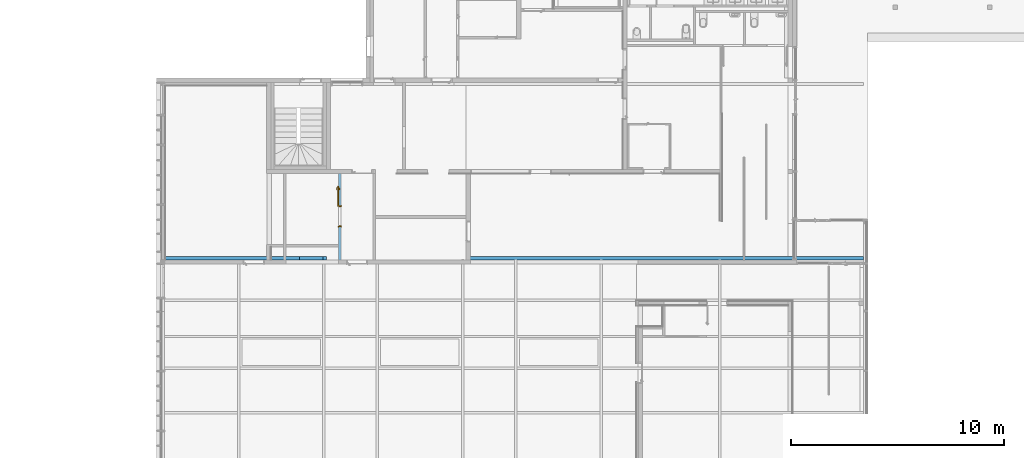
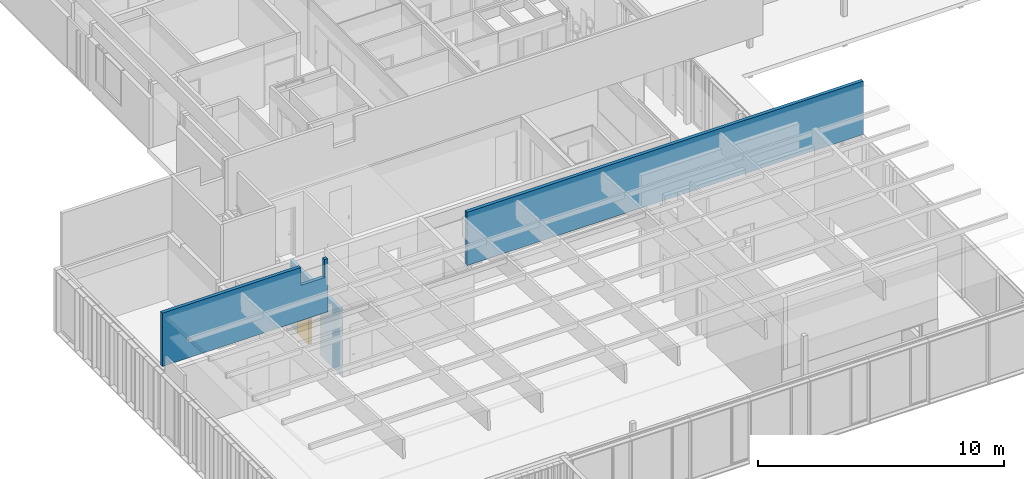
# One storey, part 186 of 240: 1 door, 1 wall, 1 opening, plus 1 element that does not belong to this part.
"""IFC2X3 building model written with IfcOpenShell, lengths in centimetres."""

from ifc_helpers import new_model, entity, si_unit, converted_unit, derived_unit, direction, frame, frame_2d, origin, place, context, subcontext, project, spatial, rectangle, extrude, faceted_brep, source, transform, mapped, material, material_list, layer, layer_set, layer_usage, type_object, type_shapes, element, fill, save


model = new_model("IFC2X3")

# Units and contexts
model_context = context("Model", 3, precision=0.001, world=origin(), true_north=direction((6.12303176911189e-17, 1.0)))
body_context = subcontext(model_context, "Body", "Model", "MODEL_VIEW")
ifc_project = project(units=[si_unit("LENGTHUNIT", "METRE", prefix="CENTI"), si_unit("AREAUNIT", "SQUARE_METRE"), si_unit("VOLUMEUNIT", "CUBIC_METRE"), converted_unit("PLANEANGLEUNIT", "DEGREE", entity("IfcRatioMeasure", 0.0174532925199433), si_unit("PLANEANGLEUNIT", "RADIAN"), dimensions=[0, 0, 0, 0, 0, 0, 0]), si_unit("MASSUNIT", "GRAM", prefix="KILO"), derived_unit("MASSDENSITYUNIT", [(si_unit("MASSUNIT", "GRAM", prefix="KILO"), 1), (si_unit("LENGTHUNIT", "METRE"), -3)]), si_unit("TIMEUNIT", "SECOND"), si_unit("FREQUENCYUNIT", "HERTZ"), si_unit("THERMODYNAMICTEMPERATUREUNIT", "DEGREE_CELSIUS"), derived_unit("THERMALTRANSMITTANCEUNIT", [(si_unit("MASSUNIT", "GRAM", prefix="KILO"), 1), (si_unit("THERMODYNAMICTEMPERATUREUNIT", "KELVIN"), -1), (si_unit("TIMEUNIT", "SECOND"), -3)]), derived_unit("VOLUMETRICFLOWRATEUNIT", [(si_unit("LENGTHUNIT", "METRE"), 3), (si_unit("TIMEUNIT", "SECOND"), -1)]), si_unit("ELECTRICCURRENTUNIT", "AMPERE"), si_unit("ELECTRICVOLTAGEUNIT", "VOLT"), si_unit("POWERUNIT", "WATT"), si_unit("FORCEUNIT", "NEWTON", prefix="KILO"), si_unit("ILLUMINANCEUNIT", "LUX"), si_unit("LUMINOUSFLUXUNIT", "LUMEN"), si_unit("LUMINOUSINTENSITYUNIT", "CANDELA"), derived_unit("USERDEFINED", [(si_unit("MASSUNIT", "GRAM", prefix="KILO"), -1), (si_unit("LENGTHUNIT", "METRE"), -2), (si_unit("TIMEUNIT", "SECOND"), 3), (si_unit("LUMINOUSFLUXUNIT", "LUMEN"), 1)]), derived_unit("LINEARVELOCITYUNIT", [(si_unit("LENGTHUNIT", "METRE"), 1), (si_unit("TIMEUNIT", "SECOND"), -1)]), si_unit("PRESSUREUNIT", "PASCAL"), derived_unit("USERDEFINED", [(si_unit("LENGTHUNIT", "METRE"), -2), (si_unit("MASSUNIT", "GRAM", prefix="KILO"), 1), (si_unit("TIMEUNIT", "SECOND"), -2)])], contexts=[model_context])

# Site, building, storey
site_placement = place(None, frame((-2781.94577612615, 7442.24238424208, 0.0)))
site = spatial("IfcSite", under=ifc_project, at=site_placement, Name="Default", CompositionType="ELEMENT")
building_placement = place(site_placement, origin())
building = spatial("IfcBuilding", under=site, at=building_placement, CompositionType="ELEMENT")
storey_placement = place(building_placement, origin())
storey = spatial("IfcBuildingStorey", under=building, at=storey_placement, Name="N00 - COO", CompositionType="ELEMENT", Elevation=0.0)

# Wall
ifc_material_1 = material(Name="00 - Isolant")
ifc_layer_1 = layer(ifc_material_1, 16.0)
ifc_layer_set_1 = layer_set([ifc_layer_1], Name="Mur de base:04 - retour isolation acrotère - ITE 16cm")
wall_type_1 = type_object("IfcWallType", Name="Mur de base:04 - retour isolation acrotère - ITE 16cm", PredefinedType="STANDARD", material=ifc_layer_set_1)
wall_1_placement = place(building_placement, frame((-8568.98738089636, -4197.50027342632, 333.862834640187), z_axis=(0.0, 0.0, 1.0), x_axis=(-1.0, 0.0, 0.0)))
element("IfcWall", 1, at=wall_1_placement, inside=storey, type_object=wall_type_1, Name="Mur de base:04 - retour isolation acrotère - ITE 16cm", ObjectType="Mur de base:04 - retour isolation acrotère - ITE 16cm", context=body_context, shape_type="Brep", body=[
    faceted_brep([(0.0, -8.0, 0.0), (1862.97735720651, -8.0, 0.0), (1862.97735720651, -8.0, 265.137165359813), (1842.97735720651, -8.0, 265.137165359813), (0.0, -8.0, 265.137165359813), (0.0, 8.0, 265.137165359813), (0.0, 8.0, 0.0), (1862.97735720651, 8.0, 0.0), (1862.97735720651, 8.0, 265.137165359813), (1842.97735720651, 8.0, 265.137165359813)], [[[0, 1, 2, 3, 4]], [[0, 4, 5, 6]], [[1, 0, 6, 7]], [[4, 3, 2, 8, 9, 5]], [[2, 1, 7, 8]], [[6, 5, 9, 8, 7]]]),
    faceted_brep([(3295.36319372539, 8.0, 265.137165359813), (3295.36319372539, 8.0, 0.0), (2517.89542707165, 8.0, 0.0), (2517.89542707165, 8.0, 265.137165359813), (2534.89542707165, 8.0, 265.137165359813), (2534.89542707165, 8.0, 175.137165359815), (2644.89542707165, 8.0, 175.137165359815), (2644.89542707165, 8.0, 265.137165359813), (3295.36319372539, -8.0, 265.137165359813), (3295.36319372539, -8.0, 0.0), (2644.89542707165, -8.0, 265.137165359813), (2644.89542707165, -8.0, 175.137165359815), (2534.89542707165, -8.0, 175.137165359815), (2534.89542707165, -8.0, 265.137165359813), (2517.89542707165, -8.0, 265.137165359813), (2517.89542707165, -8.0, 0.0)], [[[0, 1, 2, 3, 4, 5, 6, 7]], [[8, 9, 1, 0]], [[10, 8, 0, 7]], [[11, 10, 7, 6]], [[12, 11, 6, 5]], [[13, 12, 5, 4]], [[14, 13, 4, 3]], [[9, 15, 2, 1]], [[15, 14, 3, 2]], [[8, 10, 11, 12, 13, 14, 15, 9]]]),
])

# Wall, opening, door
ifc_material_2 = material(Name="01 - Enduit/Plâtre")
ifc_layer_2 = layer(ifc_material_2, 1.0)
ifc_material_3 = material(Name="Maçonnerie - Béton")
ifc_layer_3 = layer(ifc_material_3, 10.0)
ifc_layer_4 = layer(ifc_material_2, 1.0)
ifc_layer_set_2 = layer_set([ifc_layer_2, ifc_layer_3, ifc_layer_4], Name="Mur de base:06 - cloisons - agglos10 + faïence 12cm")
ifc_layer_usage = layer_usage(ifc_layer_set_2, "AXIS2", "NEGATIVE", 6.0)
wall_type_2 = type_object("IfcWallType", Name="Mur de base:06 - cloisons - agglos10 + faïence 12cm", PredefinedType="STANDARD", material=ifc_layer_set_2)
wall_2_placement = place(building_placement, frame((-11023.932180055, -3800.7196611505, 0.0), z_axis=(0.0, 0.0, 1.0), x_axis=(0.0, -1.0, 0.0)))
wall_2 = element("IfcWallStandardCase", 2, at=wall_2_placement, inside=storey, type_object=wall_type_2, material=ifc_layer_usage, Name="Mur de base:06 - cloisons - agglos10 + faïence 12cm", ObjectType="Mur de base:06 - cloisons - agglos10 + faïence 12cm", context=body_context, shape_type="SweptSolid", body=[
    extrude(rectangle(XDim=404.780612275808, YDim=12.0000000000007, at=frame_2d((202.390306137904, 0.0), x_axis=(-1.0, 0.0))), origin(), (0.0, 0.0, 1.0), 328.0),
])
opening_placement = place(wall_2_placement, frame((249.780612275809, 6.0, 0.0)))
opening = element("IfcOpeningElement", 3, at=opening_placement, cuts=wall_2, Name="Int. Simple:PP simple (0.93m x 2.50m):1", ObjectType="Opening", context=body_context, shape_type="SweptSolid", body=[
    extrude(rectangle(XDim=248.500000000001, YDim=99.9999999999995, at=frame_2d((124.250000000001, 49.9999999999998), x_axis=(1.0, 0.0))), frame((0.0, 0.0, 0.0), z_axis=(0.0, -1.0, 0.0), x_axis=(0.0, 0.0, 1.0)), (0.0, 0.0, 1.0), 12.0),
])
ifc_material_4 = material(Name="Finition Peinture - Blanc satiné")
ifc_material_5 = material(Name="Bois - Panneau de porte")
ifc_material_6 = material(Name="Bois - Cadre de porte")
ifc_material_list_1 = material_list([ifc_material_4, ifc_material_5, ifc_material_6])
ifc_material_list_2 = material_list([ifc_material_4, ifc_material_5, ifc_material_6])
door_style = type_object("IfcDoorStyle", Name="PP simple (0.93m x 2.50m)", ConstructionType="NOTDEFINED", OperationType="SINGLE_SWING_RIGHT", ParameterTakesPrecedence=False, Sizeable=False, material=ifc_material_list_2)
shared_shape = source(origin(), body_context, "Body", "Brep", [
    faceted_brep([(-78.4999999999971, 0.499999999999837, 87.0), (-78.4999999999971, 0.499999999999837, 108.0), (-77.5352761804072, 0.499999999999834, 108.399601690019), (-76.4999999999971, 0.49999999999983, 108.535898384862), (-75.4647238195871, 0.499999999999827, 108.399601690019), (-74.4999999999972, 0.499999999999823, 108.0), (-74.499999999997, 0.499999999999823, 87.0), (-75.4647238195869, 0.499999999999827, 86.6003983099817), (-76.499999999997, 0.49999999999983, 86.464101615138), (-77.5352761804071, 0.499999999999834, 86.6003983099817), (-78.4999999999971, 0.0, 108.0), (-78.499999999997, 0.0, 87.0), (-77.5352761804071, 0.0, 86.6003983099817), (-76.499999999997, 0.0, 86.464101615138), (-75.464723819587, 0.0, 86.6003983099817), (-74.4999999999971, 0.0, 87.0), (-74.4999999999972, 0.0, 108.0), (-75.4647238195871, 0.0, 108.399601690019), (-76.4999999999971, 0.0, 108.535898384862), (-77.5352761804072, 0.0, 108.399601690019)], [[[0, 1, 2, 3, 4, 5, 6, 7, 8, 9]], [[10, 11, 12, 13, 14, 15, 16, 17, 18, 19]], [[9, 12, 11, 0]], [[8, 13, 12, 9]], [[7, 14, 13, 8]], [[7, 6, 15, 14]], [[15, 6, 5, 16]], [[4, 17, 16, 5]], [[3, 18, 17, 4]], [[2, 19, 18, 3]], [[2, 1, 10, 19]], [[11, 10, 1, 0]]]),
    faceted_brep([(-78.4999999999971, -4.0, 87.0), (-78.4999999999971, -4.0, 108.0), (-77.5352761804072, -4.0, 108.399601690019), (-76.4999999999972, -4.0, 108.535898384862), (-75.4647238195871, -4.0, 108.399601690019), (-74.4999999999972, -4.0, 108.0), (-74.4999999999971, -4.0, 87.0), (-75.464723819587, -4.0, 86.6003983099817), (-76.499999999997, -4.0, 86.464101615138), (-77.5352761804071, -4.0, 86.6003983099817), (-76.4999999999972, -4.50000000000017, 108.535898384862), (-77.5352761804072, -4.50000000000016, 108.399601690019), (-78.4999999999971, -4.50000000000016, 108.0), (-78.499999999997, -4.50000000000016, 87.0), (-77.5352761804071, -4.50000000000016, 86.6003983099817), (-76.499999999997, -4.50000000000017, 86.464101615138), (-75.464723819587, -4.50000000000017, 86.6003983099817), (-74.4999999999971, -4.50000000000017, 87.0), (-74.4999999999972, -4.50000000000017, 108.0), (-75.4647238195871, -4.50000000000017, 108.399601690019)], [[[0, 1, 2, 3, 4, 5, 6, 7, 8, 9]], [[10, 11, 12, 13, 14, 15, 16, 17, 18, 19]], [[4, 19, 18, 5]], [[3, 10, 19, 4]], [[2, 11, 10, 3]], [[2, 1, 12, 11]], [[13, 12, 1, 0]], [[9, 14, 13, 0]], [[8, 15, 14, 9]], [[7, 16, 15, 8]], [[7, 6, 17, 16]], [[17, 6, 5, 18]]]),
    faceted_brep([(-76.2974701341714, 0.499999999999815, 100.778044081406), (-76.7025298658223, 0.499999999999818, 100.778044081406), (-77.0999999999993, 0.49999999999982, 100.699999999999), (-77.1000000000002, 0.49999999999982, 99.2999999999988), (-76.7025298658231, 0.499999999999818, 99.221955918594), (-76.2974701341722, 0.499999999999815, 99.2219559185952), (-75.8999999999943, 0.499999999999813, 99.3000000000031), (-75.8999999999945, 0.499999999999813, 100.7), (-76.7025298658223, 3.10045754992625, 100.778044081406), (-77.0999999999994, 3.26509507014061, 100.7), (-76.2974701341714, 2.93267631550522, 100.778044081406), (-74.929860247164, 4.30028620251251, 100.778044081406), (-75.097641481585, 4.70534593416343, 100.778044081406), (-75.8999999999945, 2.76803879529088, 100.7), (-75.8999999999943, 2.76803879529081, 99.3000000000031), (-76.2974701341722, 2.93267631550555, 99.2219559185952), (-76.7025298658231, 3.10045754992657, 99.221955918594), (-75.0976414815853, 4.70534593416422, 99.221955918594), (-74.9298602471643, 4.3002862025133, 99.2219559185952), (-77.1000000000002, 3.26509507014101, 99.2999999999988), (-75.2622790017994, 5.10281606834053, 100.7), (-74.7652227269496, 3.9028160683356, 100.7), (-74.7652227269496, 3.90281606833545, 99.3000000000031), (-75.2622790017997, 5.10281606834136, 99.2999999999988), (-66.4981359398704, 5.10281606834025, 100.7), (-66.4981359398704, 4.70534593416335, 100.778044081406), (-66.4981359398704, 4.30028620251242, 100.778044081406), (-66.4981359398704, 3.90281606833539, 100.699999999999), (-66.4981359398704, 3.90281606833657, 99.3000000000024), (-66.4981359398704, 4.30028620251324, 99.2219559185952), (-66.4981359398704, 4.70534593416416, 99.221955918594), (-66.4981359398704, 5.10281606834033, 99.2999999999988), (-70.7139980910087, 4.50281606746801, 100.78786867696), (-71.2692302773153, 5.10281606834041, 100.7), (-70.63167933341, 3.90281606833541, 100.7), (-70.6316793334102, 3.9028160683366, 99.3000000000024), (-70.7139981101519, 4.50281607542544, 99.2121313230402), (-71.2692310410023, 5.10281606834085, 99.2999999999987)], [[[0, 1, 2, 3, 4, 5, 6, 7]], [[2, 1, 8, 9]], [[1, 0, 10, 11, 12, 8]], [[0, 7, 13, 10]], [[14, 13, 7, 6]], [[5, 15, 14, 6]], [[5, 4, 16, 17, 18, 15]], [[3, 19, 16, 4]], [[9, 19, 3, 2]], [[9, 8, 12, 20]], [[10, 13, 21, 11]], [[22, 21, 13, 14]], [[14, 15, 18, 22]], [[16, 19, 23, 17]], [[20, 23, 19, 9]], [[24, 25, 26, 27, 28, 29, 30, 31]], [[32, 25, 33]], [[33, 25, 24]], [[33, 20, 12]], [[11, 34, 32]], [[34, 11, 21]], [[27, 26, 34]], [[32, 26, 25]], [[32, 34, 26]], [[32, 33, 12]], [[11, 32, 12]], [[21, 22, 35, 28, 27, 34]], [[36, 29, 35]], [[30, 36, 37]], [[18, 35, 22]], [[29, 28, 35]], [[30, 37, 31]], [[37, 17, 23]], [[36, 17, 37]], [[36, 18, 17]], [[36, 35, 18]], [[29, 36, 30]], [[23, 20, 33, 24, 31, 37]]]),
    faceted_brep([(-76.2974701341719, -4.50000000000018, 99.2219559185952), (-76.7025298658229, -4.50000000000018, 99.221955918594), (-77.099999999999, -4.50000000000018, 99.2999999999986), (-77.0999999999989, -4.50000000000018, 100.7), (-76.702529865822, -4.50000000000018, 100.778044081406), (-76.2974701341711, -4.50000000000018, 100.778044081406), (-75.8999999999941, -4.50000000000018, 100.7), (-75.8999999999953, -4.50000000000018, 99.3000000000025), (-75.8999999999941, -6.74852045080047, 100.7), (-75.8999999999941, -6.74852045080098, 99.3000000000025), (-76.2974701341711, -6.91315797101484, 100.778044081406), (-76.702529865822, -7.08093920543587, 100.778044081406), (-75.0838906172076, -8.69957845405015, 100.778044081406), (-74.9161093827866, -8.29451872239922, 100.778044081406), (-77.0999999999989, -7.2455767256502, 100.7), (-77.099999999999, -7.24557672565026, 99.2999999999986), (-76.7025298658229, -7.08093920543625, 99.221955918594), (-76.297470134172, -6.91315797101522, 99.2219559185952), (-74.916109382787, -8.29451872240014, 99.2219559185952), (-75.083890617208, -8.69957845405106, 99.221955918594), (-74.7514718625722, -7.89704858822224, 100.7), (-74.7514718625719, -7.8970485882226, 99.3000000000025), (-75.2485281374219, -9.09704858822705, 100.7), (-75.248528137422, -9.09704858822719, 99.2999999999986), (-66.4954216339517, -8.29451872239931, 100.778044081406), (-66.4954216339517, -8.69957845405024, 100.778044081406), (-66.4954216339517, -9.09704858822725, 100.7), (-66.4954216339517, -9.09704858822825, 99.2999999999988), (-66.4954216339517, -8.69957845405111, 99.221955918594), (-66.4954216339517, -8.29451872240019, 99.2219559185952), (-66.4954216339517, -7.8970485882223, 99.3000000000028), (-66.4954216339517, -7.89704858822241, 100.7), (-70.623446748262, -7.89704858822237, 100.7), (-70.6234479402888, -7.89704858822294, 99.3000000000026), (-70.7057655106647, -8.49704858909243, 100.78786867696), (-71.2554794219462, -9.09704858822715, 100.7), (-71.2554795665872, -9.09704858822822, 99.2999999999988), (-70.7057654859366, -8.49704858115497, 99.2121313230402)], [[[0, 1, 2, 3, 4, 5, 6, 7]], [[8, 9, 7, 6]], [[5, 10, 8, 6]], [[5, 4, 11, 12, 13, 10]], [[3, 14, 11, 4]], [[14, 3, 2, 15]], [[2, 1, 16, 15]], [[1, 0, 17, 18, 19, 16]], [[0, 7, 9, 17]], [[20, 21, 9, 8]], [[8, 10, 13, 20]], [[14, 22, 12, 11]], [[23, 22, 14, 15]], [[15, 16, 19, 23]], [[17, 9, 21, 18]], [[24, 25, 26, 27, 28, 29, 30, 31]], [[21, 20, 32, 31, 30, 33]], [[34, 24, 32]], [[25, 34, 35]], [[13, 32, 20]], [[24, 31, 32]], [[25, 35, 26]], [[35, 12, 22]], [[34, 12, 35]], [[34, 13, 12]], [[34, 32, 13]], [[24, 34, 25]], [[22, 23, 36, 27, 26, 35]], [[37, 28, 36]], [[36, 28, 27]], [[36, 23, 19]], [[18, 33, 37]], [[33, 18, 21]], [[30, 29, 33]], [[37, 29, 28]], [[37, 33, 29]], [[37, 36, 19]], [[18, 37, 19]]]),
    faceted_brep([(-82.4999999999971, -4.0, 245.0), (-82.4999999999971, -4.0, 0.0), (10.5000000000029, -4.0, 0.0), (10.5000000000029, -4.0, 245.0), (-82.4999999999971, 0.0, 245.0), (10.5000000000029, 0.0, 245.0), (10.5000000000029, 0.0, 0.0), (-82.4999999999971, 0.0, 0.0)], [[[0, 1, 2, 3]], [[4, 5, 6, 7]], [[3, 5, 4, 0]], [[2, 6, 5, 3]], [[1, 7, 6, 2]], [[0, 4, 7, 1]]]),
    faceted_brep([(107.0, 12.0, 0.0), (107.0, 0.0, 0.0), (108.500000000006, 0.0, 0.0), (108.500000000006, -0.500000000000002, 0.0), (103.500000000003, -0.500000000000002, 0.0), (103.500000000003, 4.0, 0.0), (102.0, 4.0, 0.0), (102.0, 12.5000000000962, 0.0), (108.500000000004, 12.5000000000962, 0.0), (108.500000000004, 12.0, 0.0), (107.0, 12.0, 248.500000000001), (107.0, 0.0, 248.500000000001), (108.500000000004, 12.0, 250.0), (5.50000000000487, 12.0, 250.0), (5.50000000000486, 12.0, 0.0), (7.0, 12.0, 0.0), (7.0, 12.0, 248.500000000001), (102.0, 4.0, 243.5), (102.0, 12.5000000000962, 243.5), (103.500000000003, 4.0, 245.0), (10.5000000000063, 4.0, 245.0), (10.5000000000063, 4.0, 0.0), (12.0, 4.0, 0.0), (12.0, 4.0, 243.5), (7.0, 0.0, 0.0), (7.0, 0.0, 248.500000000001), (5.50000000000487, 12.5000000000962, 0.0), (12.0, 12.5000000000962, 0.0), (10.5000000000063, -0.500000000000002, 0.0), (5.5000000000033, -0.500000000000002, 0.0), (5.5000000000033, 0.0, 0.0), (12.0, 12.5000000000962, 243.5), (103.500000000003, -0.500000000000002, 245.0), (108.500000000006, -0.500000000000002, 250.0), (5.5000000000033, -0.500000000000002, 250.0), (10.5000000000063, -0.500000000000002, 245.0), (108.500000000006, 0.0, 250.0), (5.50000000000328, 0.0, 250.0), (108.500000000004, 12.5000000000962, 250.0), (5.50000000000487, 12.5000000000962, 250.0)], [[[0, 1, 2, 3, 4, 5, 6, 7, 8, 9]], [[0, 10, 11, 1]], [[9, 12, 13, 14, 15, 16, 10, 0]], [[7, 6, 17, 18]], [[5, 19, 20, 21, 22, 23, 17, 6]], [[16, 15, 24, 25]], [[15, 14, 26, 27, 22, 21, 28, 29, 30, 24]], [[23, 22, 27, 31]], [[10, 16, 25, 11]], [[17, 23, 31, 18]], [[5, 4, 32, 19]], [[3, 33, 34, 29, 28, 35, 32, 4]], [[2, 36, 33, 3]], [[1, 11, 25, 24, 30, 37, 36, 2]], [[8, 38, 12, 9]], [[7, 18, 31, 27, 26, 39, 38, 8]], [[35, 28, 21, 20]], [[37, 30, 29, 34]], [[39, 26, 14, 13]], [[32, 35, 20, 19]], [[36, 37, 34, 33]], [[38, 39, 13, 12]]]),
])
type_shapes(door_style, [shared_shape])
door_placement = place(opening_placement, frame((-107.0, -12.0, 0.0)))
door = element("IfcDoor", 4, at=door_placement, inside=storey, type_object=door_style, material=ifc_material_list_1, Name="Int. Simple:PP simple (0.93m x 2.50m)", ObjectType="Int. Simple:PP simple (0.93m x 2.50m)", OverallHeight=248.500000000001, OverallWidth=99.9999999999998, context=body_context, shape_type="MappedRepresentation", body=[
    mapped(shared_shape, transform((0.0, 0.0, 0.0), scale=1.0)),
])
fill(opening, door)

save(model, "model.ifc")
